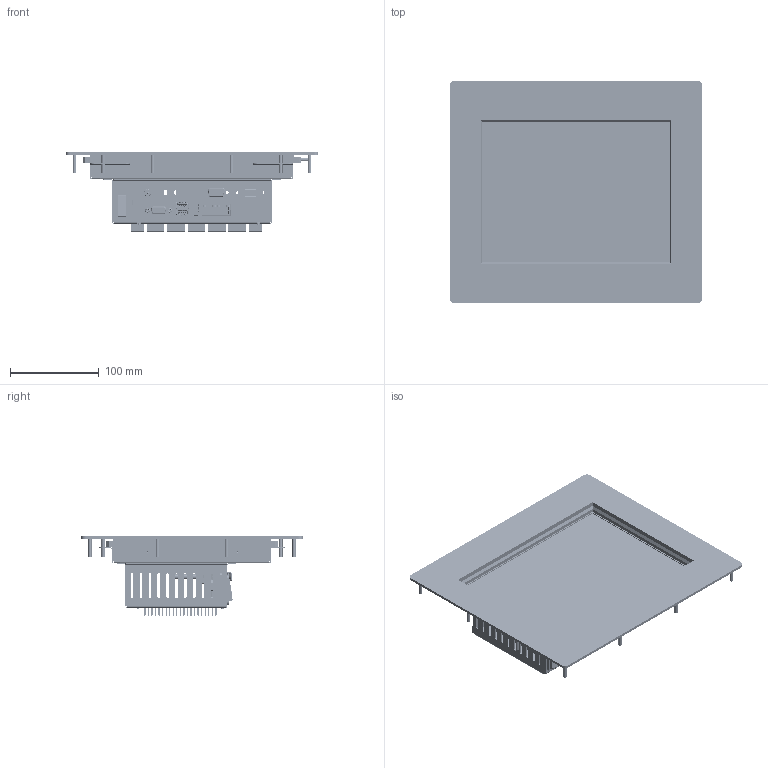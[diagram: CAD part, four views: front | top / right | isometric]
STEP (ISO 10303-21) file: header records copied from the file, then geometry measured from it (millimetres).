
FILE_DESCRIPTION (( 'STEP AP203' ), '1' );
FILE_NAME ('PPC100-C4-IRU panelmount.STEP', '2023-09-21T10:03:02', ( '' ), ( '' ), 'SwSTEP 2.0', 'SolidWorks 2023', '' );
FILE_SCHEMA (( 'CONFIG_CONTROL_DESIGN' ));
Length unit declared in the file: millimetre
Products named in the file (39): 2.5mm_DC_socket_panelmount; E10; pj-064b_04; pj-064b_03; MSBR-3^SLIM_D-SUB_15F_1_50MM_DIP_90__PCB-SBC-250_sbc-250(2)_sbc-250; PCB-SBC-250^sbc-250(2)_sbc-250; MYLAR_7^SBC240_HS_00_ASM_73_sbc-250(2)_sbc-250; pj-064b_01; PPC100-C4-IRU panelmount; PM-10-10 Panelmount; HEAT-SINK-1_14^SBC240_HS_00_ASM_73_sbc-250(2)_sbc-250; IOPC-10 Power button panelmount connector; PAD_GR-45A_9^SBC240_HS_00_ASM_73_sbc-250(2)_sbc-250; sbc-250; pj-064b_05; Rocker switch; BCS-SBC250-10 Small backcover; PCB-SBC-250-5^PCB-SBC-250_sbc-250(2)_sbc-250; NUT-1_14^SBC240_HS_00_ASM_73_sbc-250(2)_sbc-250; MPO-100-10 Mounting plate; AK_LAN_JACK_24P_4H_S_KI_LFA^PCB-SBC-250_sbc-250(2)_sbc-250; Vertical stacked USB panelmount_Défaut; Celrubber 8x2^PPC100-C4; PPCS-SBC250-00 Small backcover assembly_IRtouch panelmount; SLIM_D-SUB_15F_1_50MM_DIP_90_^PCB-SBC-250_sbc-250(2)_sbc-250; SCREW_6^SBC240_HS_00_ASM_73_sbc-250(2)_sbc-250; MSBR-2^SLIM_D-SUB_15F_1_50MM_DIP_90__PCB-SBC-250_sbc-250(2)_sbc-250; CMI G104X1-L04; sbc-250(2)^sbc-250; AK_D_SUB_15P_4HD_RA_LFA^PCB-SBC-250_sbc-250(2)_sbc-250; Tape^PPC100-C4; AK_USB_13P_4HD_RA_FOXC^PCB-SBC-250_sbc-250(2)_sbc-250; pj-064b_02; AK_HDMI_19P_30_7HD_RA_LFA^PCB-SBC-250_sbc-250(2)_sbc-250; LE-374_RS232_RS 446-462; SBC240_HS_00_ASM_73^sbc-250(2)_sbc-250; MSBR-1^SLIM_D-SUB_15F_1_50MM_DIP_90__PCB-SBC-250_sbc-250(2)_sbc-250; SO-3,5M3-6-ZI Inpersafstandsteun
Assembly tree (55 placements, depth 7):
  PPC100-C4-IRU panelmount
    PPCS-SBC250-00 Small backcover assembly_IRtouch panelmount
      BCS-SBC250-10 Small backcover
      Rocker switch
      LE-374_RS232_RS 446-462
      sbc-250
        sbc-250(2)^sbc-250
          PCB-SBC-250^sbc-250(2)_sbc-250
            SLIM_D-SUB_15F_1_50MM_DIP_90_^PCB-SBC-250_sbc-250(2)_sbc-250
              MSBR-3^SLIM_D-SUB_15F_1_50MM_DIP_90__PCB-SBC-250_sbc-250(2)_sbc-250
              MSBR-2^SLIM_D-SUB_15F_1_50MM_DIP_90__PCB-SBC-250_sbc-250(2)_sbc-250
              MSBR-1^SLIM_D-SUB_15F_1_50MM_DIP_90__PCB-SBC-250_sbc-250(2)_sbc-250
            PCB-SBC-250-5^PCB-SBC-250_sbc-250(2)_sbc-250
            AK_D_SUB_15P_4HD_RA_LFA^PCB-SBC-250_sbc-250(2)_sbc-250
            AK_USB_13P_4HD_RA_FOXC^PCB-SBC-250_sbc-250(2)_sbc-250
            AK_HDMI_19P_30_7HD_RA_LFA^PCB-SBC-250_sbc-250(2)_sbc-250
            AK_LAN_JACK_24P_4H_S_KI_LFA^PCB-SBC-250_sbc-250(2)_sbc-250
          SBC240_HS_00_ASM_73^sbc-250(2)_sbc-250
            HEAT-SINK-1_14^SBC240_HS_00_ASM_73_sbc-250(2)_sbc-250
            MYLAR_7^SBC240_HS_00_ASM_73_sbc-250(2)_sbc-250
            PAD_GR-45A_9^SBC240_HS_00_ASM_73_sbc-250(2)_sbc-250
            NUT-1_14^SBC240_HS_00_ASM_73_sbc-250(2)_sbc-250  x4
            SCREW_6^SBC240_HS_00_ASM_73_sbc-250(2)_sbc-250  x4
      2.5mm_DC_socket_panelmount
        pj-064b_01
        pj-064b_02
        pj-064b_03
        pj-064b_04
        pj-064b_05
      Vertical stacked USB panelmount_Défaut
      IOPC-10 Power button panelmount connector
    MPO-100-10 Mounting plate
      MPO-100-10 Mounting plate
      SO-3,5M3-6-ZI Inpersafstandsteun  x12
    PM-10-10 Panelmount
    CMI G104X1-L04
    E10
    Tape^PPC100-C4
    Celrubber 8x2^PPC100-C4
Bounding box: 285 x 250 x 89.6 mm (x, y, z)
Volume: 733262.6 mm3; surface area: 579170.1 mm2
Topology: 53 solids, 68 shells, 8399 faces, 23006 edges, 14776 vertices
Faces by surface type: plane 5706, cylinder 2155, bspline 273, cone 141, torus 98, sphere 26
Full cylindrical faces by diameter (mm): 0.92 x9, 1.6 x4, 1.95 x2, 2.5 x19, 3 x6, 3.2 x2, 3.5 x14, 4 x17, 4.5 x4, 5.4 x12, 5.49 x12, 5.5 x1, 5.7 x1, 6.5 x4, 8 x1, 11 x1
Entity records: 283499 total; most frequent: CARTESIAN_POINT 73943, ORIENTED_EDGE 44044, DIRECTION 40270, EDGE_CURVE 22024, VECTOR 16520, LINE 16520, VERTEX_POINT 14207, AXIS2_PLACEMENT_3D 11875
